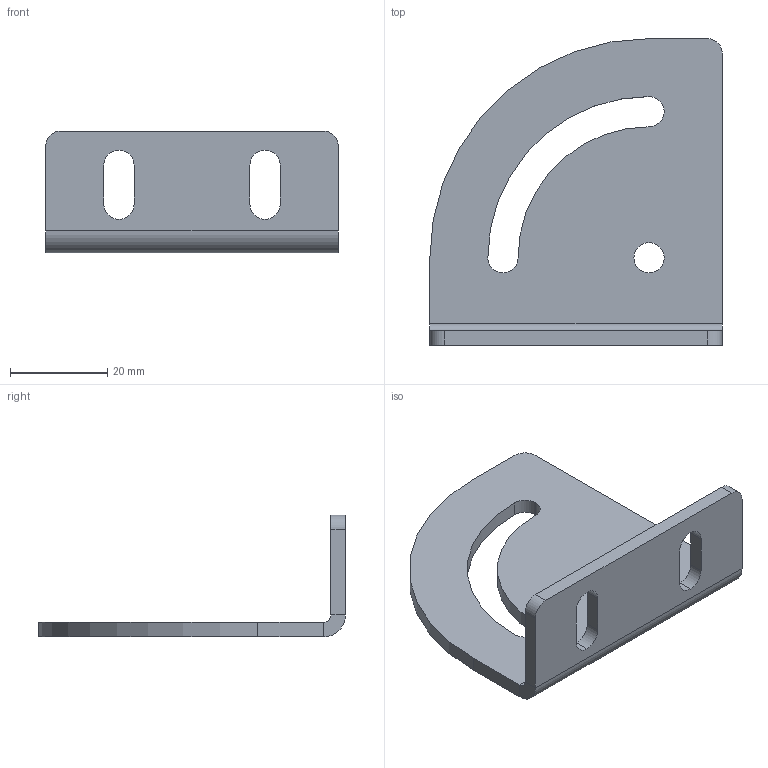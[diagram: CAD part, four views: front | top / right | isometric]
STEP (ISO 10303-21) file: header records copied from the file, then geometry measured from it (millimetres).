
FILE_DESCRIPTION (( 'STEP AP214' ), '1' );
FILE_NAME ('deg90s2030.STEP', '2018-03-09T08:56:31', ( '' ), ( '' ), 'SwSTEP 2.0', 'SolidWorks 2014', '' );
FILE_SCHEMA (( 'AUTOMOTIVE_DESIGN' ));
Length unit declared in the file: millimetre
Products named in the file (2): deg90s2030
Bounding box: 60 x 63 x 25 mm (x, y, z)
Volume: 12210.7 mm3; surface area: 9545.7 mm2
Topology: 1 solids, 1 shells, 35 faces, 91 edges, 58 vertices
Faces by surface type: cylinder 19, plane 16
Entity records: 1144 total; most frequent: DIRECTION 203, CARTESIAN_POINT 186, ORIENTED_EDGE 182, EDGE_CURVE 91, AXIS2_PLACEMENT_3D 75, VERTEX_POINT 58, LINE 53, VECTOR 53
